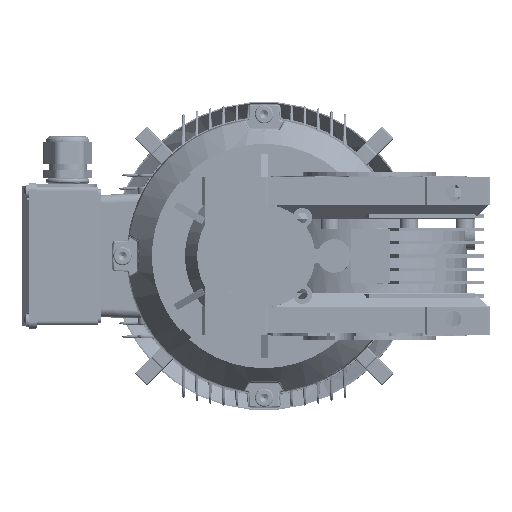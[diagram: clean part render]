
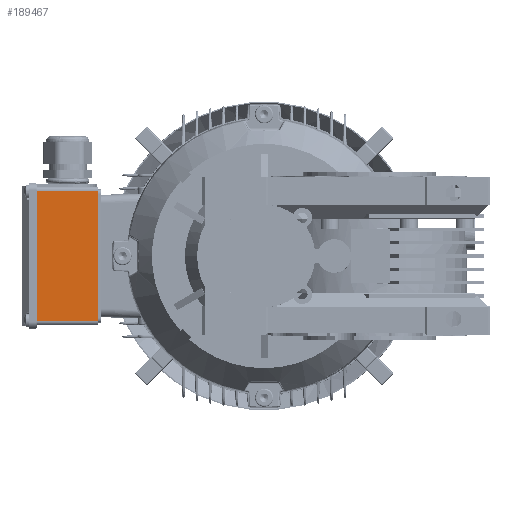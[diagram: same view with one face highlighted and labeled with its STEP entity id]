
A CAD part, left-side view. The second image highlights one B-rep face of the part: STEP entity #189467.
In plain terms, the highlighted planar face has unit normal (-1, 0, 0).
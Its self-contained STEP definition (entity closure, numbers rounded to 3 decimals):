
#6140 = CARTESIAN_POINT ( 'NONE',  ( -49.488, 43., -46.512 ) ) ;
#6141 = DIRECTION ( 'NONE',  ( 0., 0., -1. ) ) ;
#6146 = CARTESIAN_POINT ( 'NONE',  ( -49.488, 47., 46.126 ) ) ;
#6151 = DIRECTION ( 'NONE',  ( 0., -1., 0. ) ) ;
#6152 = CARTESIAN_POINT ( 'NONE',  ( -49.488, 0., -46.512 ) ) ;
#6159 = DIRECTION ( 'NONE',  ( 0., 0., 1. ) ) ;
#33671 = EDGE_CURVE ( 'NONE', #154390, #154356, #50188, .T. ) ;
#50188 = LINE ( 'NONE', #265153, #50204 ) ;
#50204 = VECTOR ( 'NONE', #265133, 1000. ) ;
#78010 = ORIENTED_EDGE ( 'NONE', *, *, #33671, .F. ) ;
#78013 = ORIENTED_EDGE ( 'NONE', *, *, #258207, .T. ) ;
#78017 = ORIENTED_EDGE ( 'NONE', *, *, #258210, .F. ) ;
#78019 = ORIENTED_EDGE ( 'NONE', *, *, #258202, .T. ) ;
#132030 = CARTESIAN_POINT ( 'NONE',  ( -49.488, 47., 46.126 ) ) ;
#132037 = PLANE ( 'NONE',  #161883 ) ;
#132043 = DIRECTION ( 'NONE',  ( 1., 0., 0. ) ) ;
#132046 = DIRECTION ( 'NONE',  ( 0., 0., -1. ) ) ;
#154356 = VERTEX_POINT ( 'NONE', #175020 ) ;
#154390 = VERTEX_POINT ( 'NONE', #175097 ) ;
#155157 = VERTEX_POINT ( 'NONE', #212749 ) ;
#155194 = VERTEX_POINT ( 'NONE', #238800 ) ;
#161883 = AXIS2_PLACEMENT_3D ( 'NONE', #132030, #132043, #132046 ) ;
#175020 = CARTESIAN_POINT ( 'NONE',  ( -49.488, 43., -46.126 ) ) ;
#175097 = CARTESIAN_POINT ( 'NONE',  ( -49.488, 0., -46.126 ) ) ;
#189467 = ADVANCED_FACE ( 'NONE', ( #194263 ), #132037, .F. ) ;
#194263 = FACE_OUTER_BOUND ( 'NONE', #296104, .T. ) ;
#212749 = CARTESIAN_POINT ( 'NONE',  ( -49.488, 0., 46.126 ) ) ;
#238800 = CARTESIAN_POINT ( 'NONE',  ( -49.488, 43., 46.126 ) ) ;
#258202 = EDGE_CURVE ( 'NONE', #155194, #154356, #269487, .T. ) ;
#258207 = EDGE_CURVE ( 'NONE', #154390, #155157, #269489, .T. ) ;
#258210 = EDGE_CURVE ( 'NONE', #155194, #155157, #269497, .T. ) ;
#265133 = DIRECTION ( 'NONE',  ( 0., 1., 0. ) ) ;
#265153 = CARTESIAN_POINT ( 'NONE',  ( -49.488, 47., -46.126 ) ) ;
#269487 = LINE ( 'NONE', #6140, #269491 ) ;
#269489 = LINE ( 'NONE', #6152, #269495 ) ;
#269491 = VECTOR ( 'NONE', #6141, 1000. ) ;
#269495 = VECTOR ( 'NONE', #6159, 1000. ) ;
#269497 = LINE ( 'NONE', #6146, #269501 ) ;
#269501 = VECTOR ( 'NONE', #6151, 1000. ) ;
#296104 = EDGE_LOOP ( 'NONE', ( #78010, #78013, #78017, #78019 ) ) ;
